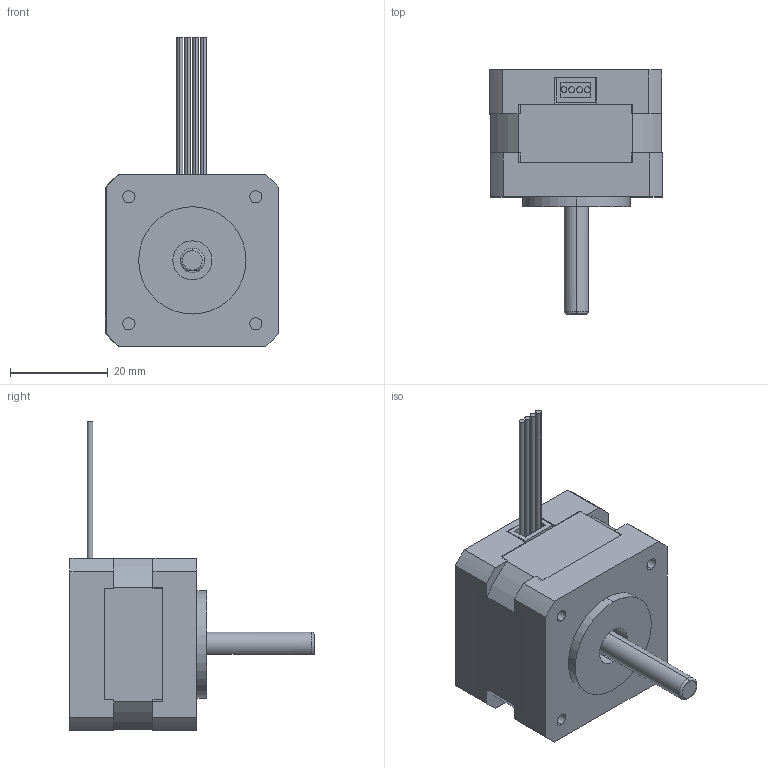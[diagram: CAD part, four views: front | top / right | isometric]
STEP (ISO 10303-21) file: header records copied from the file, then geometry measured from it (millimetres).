
FILE_DESCRIPTION (( 'STEP AP214' ), '1' );
FILE_NAME ('35BYGH226.STEP', '2020-05-21T07:40:40', ( 'Windows' ), ( 'Microsoft' ), 'SwSTEP 2.0', 'SolidWorks 2015', '' );
FILE_SCHEMA (( 'AUTOMOTIVE_DESIGN' ));
Length unit declared in the file: millimetre
Products named in the file (7): 粣; 盄旰; M3蹟隊; 35D16-B綴傷裔; 35D16-Aヶ傷裔; 隅赽; 35BYGH226
Assembly tree (9 placements, depth 2):
  35BYGH226
    隅赽
    35D16-Aヶ傷裔
    35D16-B綴傷裔
    M3蹟隊  x4
    盄旰
    粣
Bounding box: 35.45 x 50 x 63.3 mm (x, y, z)
Volume: 32513 mm3; surface area: 14350.3 mm2
Topology: 13 solids, 13 shells, 217 faces, 518 edges, 336 vertices
Faces by surface type: plane 101, cylinder 96, bspline 20
Entity records: 6363 total; most frequent: CARTESIAN_POINT 916, DIRECTION 784, ORIENTED_EDGE 694, EDGE_CURVE 347, AXIS2_PLACEMENT_3D 296, VERTEX_POINT 228, VECTOR 192, LINE 192
